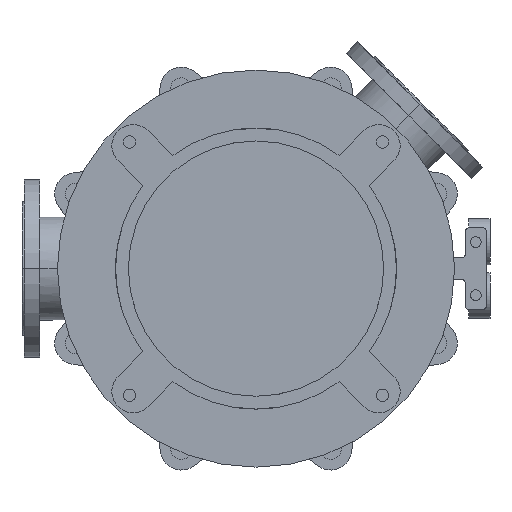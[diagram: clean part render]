
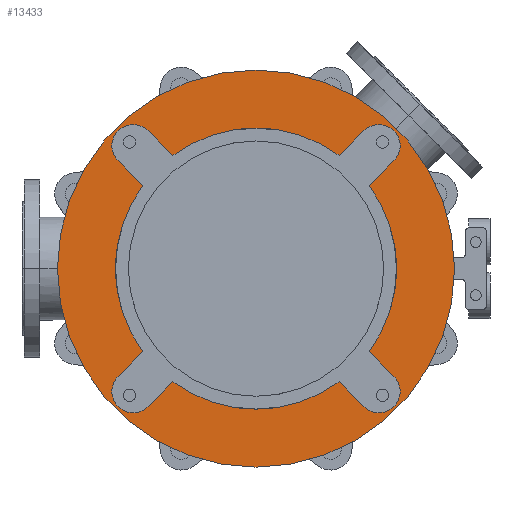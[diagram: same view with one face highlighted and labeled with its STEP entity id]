
A CAD part, front view. The second image highlights one B-rep face of the part: STEP entity #13433.
In plain terms, the highlighted planar face has unit normal (0, -1, 0).
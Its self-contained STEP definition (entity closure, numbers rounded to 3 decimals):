
#3034=CARTESIAN_POINT('',(0.,-25.,0.));
#3035=DIRECTION('',(0.,1.,0.));
#3036=DIRECTION('',(0.592,0.,-0.806));
#3037=AXIS2_PLACEMENT_3D('',#3034,#3035,#3036);
#3052=CARTESIAN_POINT('',(0.,-25.,0.));
#3053=DIRECTION('',(0.,1.,0.));
#3054=DIRECTION('',(0.806,0.,0.592));
#3055=AXIS2_PLACEMENT_3D('',#3052,#3053,#3054);
#3079=CARTESIAN_POINT('',(0.,-25.,0.));
#3080=DIRECTION('',(0.,1.,0.));
#3081=DIRECTION('',(-0.806,0.,-0.592));
#3082=AXIS2_PLACEMENT_3D('',#3079,#3080,#3081);
#3088=CARTESIAN_POINT('',(0.,-25.,0.));
#3089=DIRECTION('',(0.,1.,0.));
#3090=DIRECTION('',(-0.592,0.,0.806));
#3091=AXIS2_PLACEMENT_3D('',#3088,#3089,#3090);
#3266=CARTESIAN_POINT('',(0.,-25.,0.));
#3267=DIRECTION('',(0.,-1.,0.));
#3268=DIRECTION('',(-1.,0.,0.));
#3269=AXIS2_PLACEMENT_3D('',#3266,#3267,#3268);
#3271=CARTESIAN_POINT('',(0.,-25.,0.));
#3272=DIRECTION('',(0.,1.,0.));
#3273=DIRECTION('',(-1.,0.,0.));
#3274=AXIS2_PLACEMENT_3D('',#3271,#3272,#3273);
#3276=CARTESIAN_POINT('',(-173.241,-25.,173.241));
#3277=DIRECTION('',(0.,-1.,0.));
#3278=DIRECTION('',(0.707,0.,0.707));
#3279=AXIS2_PLACEMENT_3D('',#3276,#3277,#3278);
#3281=DIRECTION('',(0.707,0.,-0.707));
#3282=VECTOR('',#3281,49.286);
#3283=CARTESIAN_POINT('',(-194.454,-25.,152.028));
#3284=LINE('',#3283,#3282);
#3285=DIRECTION('',(-0.707,0.,-0.707));
#3286=VECTOR('',#3285,49.286);
#3287=CARTESIAN_POINT('',(-159.604,-25.,-117.178));
#3288=LINE('',#3287,#3286);
#3289=CARTESIAN_POINT('',(-173.241,-25.,-173.241));
#3290=DIRECTION('',(0.,-1.,0.));
#3291=DIRECTION('',(-0.707,0.,0.707));
#3292=AXIS2_PLACEMENT_3D('',#3289,#3290,#3291);
#3294=DIRECTION('',(0.707,0.,0.707));
#3295=VECTOR('',#3294,49.286);
#3296=CARTESIAN_POINT('',(-152.028,-25.,-194.454));
#3297=LINE('',#3296,#3295);
#3298=DIRECTION('',(0.707,0.,-0.707));
#3299=VECTOR('',#3298,49.286);
#3300=CARTESIAN_POINT('',(117.178,-25.,-159.604));
#3301=LINE('',#3300,#3299);
#3302=CARTESIAN_POINT('',(173.241,-25.,-173.241));
#3303=DIRECTION('',(0.,-1.,0.));
#3304=DIRECTION('',(-0.707,0.,-0.707));
#3305=AXIS2_PLACEMENT_3D('',#3302,#3303,#3304);
#3307=DIRECTION('',(-0.707,0.,0.707));
#3308=VECTOR('',#3307,49.286);
#3309=CARTESIAN_POINT('',(194.454,-25.,-152.028));
#3310=LINE('',#3309,#3308);
#3311=DIRECTION('',(0.707,0.,0.707));
#3312=VECTOR('',#3311,49.286);
#3313=CARTESIAN_POINT('',(159.604,-25.,117.178));
#3314=LINE('',#3313,#3312);
#3315=CARTESIAN_POINT('',(173.241,-25.,173.241));
#3316=DIRECTION('',(0.,-1.,0.));
#3317=DIRECTION('',(0.707,0.,-0.707));
#3318=AXIS2_PLACEMENT_3D('',#3315,#3316,#3317);
#3320=DIRECTION('',(-0.707,0.,-0.707));
#3321=VECTOR('',#3320,49.286);
#3322=CARTESIAN_POINT('',(152.028,-25.,194.454));
#3323=LINE('',#3322,#3321);
#3324=DIRECTION('',(-0.707,0.,0.707));
#3325=VECTOR('',#3324,49.286);
#3326=CARTESIAN_POINT('',(-117.178,-25.,159.604));
#3327=LINE('',#3326,#3325);
#8401=CARTESIAN_POINT('',(-280.,-25.,0.));
#8402=CARTESIAN_POINT('',(280.,-25.,0.));
#8403=VERTEX_POINT('',#8401);
#8404=VERTEX_POINT('',#8402);
#8425=CARTESIAN_POINT('',(-194.454,-25.,-152.028));
#8426=CARTESIAN_POINT('',(-152.028,-25.,-194.454));
#8427=VERTEX_POINT('',#8425);
#8428=VERTEX_POINT('',#8426);
#8429=CARTESIAN_POINT('',(-117.178,-25.,-159.604));
#8430=VERTEX_POINT('',#8429);
#8431=CARTESIAN_POINT('',(-159.604,-25.,-117.178));
#8432=VERTEX_POINT('',#8431);
#8441=CARTESIAN_POINT('',(152.028,-25.,-194.454));
#8442=CARTESIAN_POINT('',(194.454,-25.,-152.028));
#8443=VERTEX_POINT('',#8441);
#8444=VERTEX_POINT('',#8442);
#8445=CARTESIAN_POINT('',(159.604,-25.,-117.178));
#8446=VERTEX_POINT('',#8445);
#8447=CARTESIAN_POINT('',(117.178,-25.,-159.604));
#8448=VERTEX_POINT('',#8447);
#8457=CARTESIAN_POINT('',(194.454,-25.,152.028));
#8458=CARTESIAN_POINT('',(152.028,-25.,194.454));
#8459=VERTEX_POINT('',#8457);
#8460=VERTEX_POINT('',#8458);
#8461=CARTESIAN_POINT('',(117.178,-25.,159.604));
#8462=VERTEX_POINT('',#8461);
#8463=CARTESIAN_POINT('',(159.604,-25.,117.178));
#8464=VERTEX_POINT('',#8463);
#8473=CARTESIAN_POINT('',(-152.028,-25.,194.454));
#8474=CARTESIAN_POINT('',(-194.454,-25.,152.028));
#8475=VERTEX_POINT('',#8473);
#8476=VERTEX_POINT('',#8474);
#8477=CARTESIAN_POINT('',(-159.604,-25.,117.178));
#8478=VERTEX_POINT('',#8477);
#8479=CARTESIAN_POINT('',(-117.178,-25.,159.604));
#8480=VERTEX_POINT('',#8479);
#13393=CARTESIAN_POINT('',(0.,-25.,0.));
#13394=DIRECTION('',(0.,-1.,0.));
#13395=DIRECTION('',(-1.,0.,0.));
#13396=AXIS2_PLACEMENT_3D('',#13393,#13394,#13395);
#13397=PLANE('',#13396);
#13399=ORIENTED_EDGE('',*,*,#13398,.F.);
#13401=ORIENTED_EDGE('',*,*,#13400,.T.);
#13402=EDGE_LOOP('',(#13399,#13401));
#13403=FACE_OUTER_BOUND('',#13402,.F.);
#13405=ORIENTED_EDGE('',*,*,#13404,.T.);
#13407=ORIENTED_EDGE('',*,*,#13406,.T.);
#13408=ORIENTED_EDGE('',*,*,#13346,.F.);
#13410=ORIENTED_EDGE('',*,*,#13409,.T.);
#13412=ORIENTED_EDGE('',*,*,#13411,.T.);
#13414=ORIENTED_EDGE('',*,*,#13413,.T.);
#13415=ORIENTED_EDGE('',*,*,#13299,.F.);
#13416=ORIENTED_EDGE('',*,*,#13383,.T.);
#13418=ORIENTED_EDGE('',*,*,#13417,.T.);
#13420=ORIENTED_EDGE('',*,*,#13419,.T.);
#13421=ORIENTED_EDGE('',*,*,#13320,.F.);
#13423=ORIENTED_EDGE('',*,*,#13422,.T.);
#13425=ORIENTED_EDGE('',*,*,#13424,.T.);
#13427=ORIENTED_EDGE('',*,*,#13426,.T.);
#13428=ORIENTED_EDGE('',*,*,#13364,.F.);
#13430=ORIENTED_EDGE('',*,*,#13429,.T.);
#13431=EDGE_LOOP('',(#13405,#13407,#13408,#13410,#13412,#13414,#13415,#13416,
#13418,#13420,#13421,#13423,#13425,#13427,#13428,#13430));
#13432=FACE_BOUND('',#13431,.F.);
#13433=ADVANCED_FACE('',(#13403,#13432),#13397,.T.);
#3038=CIRCLE('',#3037,198.);
#3056=CIRCLE('',#3055,198.);
#3083=CIRCLE('',#3082,198.);
#3092=CIRCLE('',#3091,198.);
#3270=CIRCLE('',#3269,280.);
#3275=CIRCLE('',#3274,280.);
#3280=CIRCLE('',#3279,30.);
#3293=CIRCLE('',#3292,30.);
#3306=CIRCLE('',#3305,30.);
#3319=CIRCLE('',#3318,30.);
#13299=EDGE_CURVE('',#8448,#8430,#3038,.T.);
#13320=EDGE_CURVE('',#8464,#8446,#3056,.T.);
#13346=EDGE_CURVE('',#8432,#8478,#3083,.T.);
#13364=EDGE_CURVE('',#8480,#8462,#3092,.T.);
#13383=EDGE_CURVE('',#8448,#8443,#3301,.T.);
#13398=EDGE_CURVE('',#8403,#8404,#3270,.T.);
#13400=EDGE_CURVE('',#8403,#8404,#3275,.T.);
#13404=EDGE_CURVE('',#8475,#8476,#3280,.T.);
#13406=EDGE_CURVE('',#8476,#8478,#3284,.T.);
#13409=EDGE_CURVE('',#8432,#8427,#3288,.T.);
#13411=EDGE_CURVE('',#8427,#8428,#3293,.T.);
#13413=EDGE_CURVE('',#8428,#8430,#3297,.T.);
#13417=EDGE_CURVE('',#8443,#8444,#3306,.T.);
#13419=EDGE_CURVE('',#8444,#8446,#3310,.T.);
#13422=EDGE_CURVE('',#8464,#8459,#3314,.T.);
#13424=EDGE_CURVE('',#8459,#8460,#3319,.T.);
#13426=EDGE_CURVE('',#8460,#8462,#3323,.T.);
#13429=EDGE_CURVE('',#8480,#8475,#3327,.T.);
